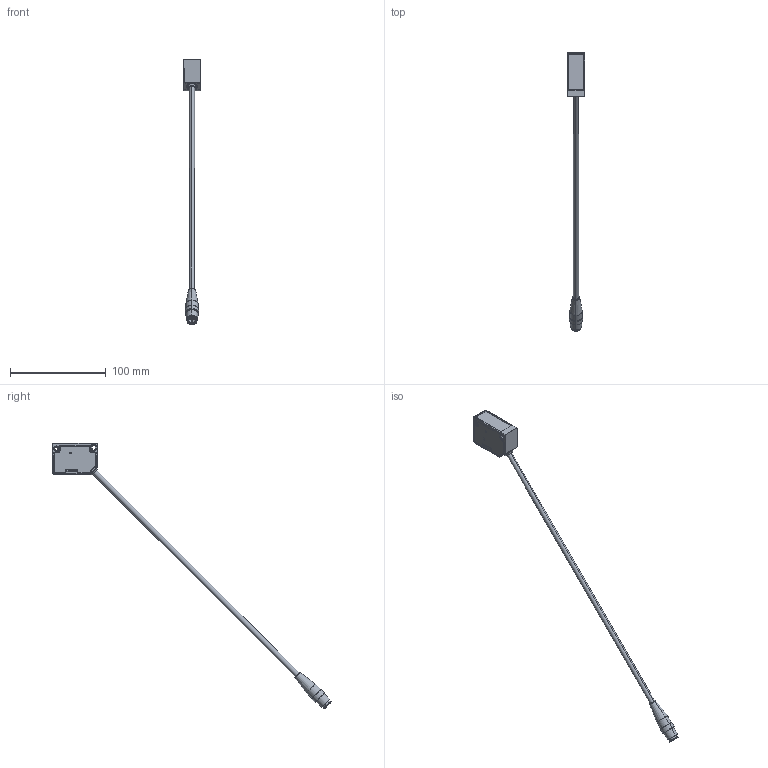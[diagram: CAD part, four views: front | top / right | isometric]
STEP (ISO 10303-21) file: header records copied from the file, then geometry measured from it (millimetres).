
FILE_DESCRIPTION (( 'STEP AP214' ), '1' );
FILE_NAME ('CD2S_Exterior.STEP', '2025-07-17T00:06:02', ( '' ), ( '' ), 'SwSTEP 2.0', 'SolidWorks 2023', '' );
FILE_SCHEMA (( 'AUTOMOTIVE_DESIGN' ));
Length unit declared in the file: millimetre
Products named in the file (1): CD2S_Exterior
Bounding box: 18.4 x 291.34 x 277.93 mm (x, y, z)
Volume: 35893.8 mm3; surface area: 23630.8 mm2
Topology: 10 solids, 12 shells, 568 faces, 1409 edges, 898 vertices
Faces by surface type: plane 208, cylinder 206, torus 65, cone 60, bspline 29
Entity records: 18222 total; most frequent: CARTESIAN_POINT 4629, DIRECTION 2851, ORIENTED_EDGE 2810, EDGE_CURVE 1405, AXIS2_PLACEMENT_3D 1066, VERTEX_POINT 898, LINE 719, VECTOR 719
